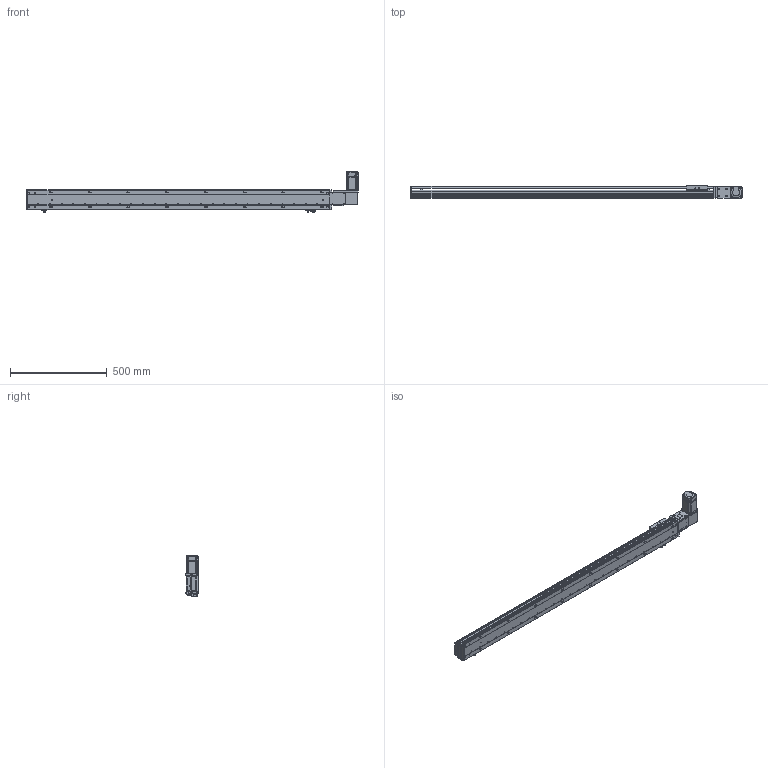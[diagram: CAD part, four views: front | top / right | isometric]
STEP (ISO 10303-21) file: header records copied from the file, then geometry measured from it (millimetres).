
FILE_DESCRIPTION (( 'STEP AP203' ), '1' );
FILE_NAME ('RY100-T-300-RK.SLDASM_1350.step', '2024-04-25T08:23:05', ( '盈信电脑' ), ( '东莞市道滘镇水果街19号' ), 'SwSTEP 2.0', 'SolidWorks 2016', '' );
FILE_SCHEMA (( 'CONFIG_CONTROL_DESIGN' ));
Length unit declared in the file: millimetre
Products named in the file (15): RY80-T肮祭謫俋欶; 1; RY100俋离覜茼え; RY100-T翋肮祭謫裔啣2; RY100-T粣創揤踡裔; RY100-T-300-RK倰第奻裔_1350; 侂狟200W萇儂; RY100-T肮祭謫臏賑輸; RY100-T-300-RK.SLDASM_1350; RY100-T左右折电机安装板; RY100-T-300-RK倰第菁釱_1350; RY100-T肮祭謫翋盓傅釱; 覜茼ん672; 滅袉蝶18-10; RY100綴裔啣
Assembly tree (18 placements, depth 3):
  RY100-T-300-RK.SLDASM_1350
    RY100-T-300-RK倰第菁釱_1350
    RY100-T-300-RK倰第奻裔_1350
    RY100-T肮祭謫臏賑輸
    RY100綴裔啣
    覜茼ん672  x3
    RY100俋离覜茼え
    RY100-T肮祭謫翋盓傅釱
    RY100-T左右折电机安装板
    侂狟200W萇儂
      1
    RY100-T粣創揤踡裔
    滅袉蝶18-10  x2
    RY100-T翋肮祭謫裔啣2  x2
    RY80-T肮祭謫俋欶
Bounding box: 1714 x 66 x 209.7 mm (x, y, z)
Volume: 3185259.2 mm3; surface area: 1326931.2 mm2
Topology: 17 solids, 17 shells, 2217 faces, 6182 edges, 4020 vertices
Faces by surface type: plane 1193, cylinder 813, cone 133, bspline 78
Entity records: 71142 total; most frequent: CARTESIAN_POINT 17223, ORIENTED_EDGE 11100, DIRECTION 10566, EDGE_CURVE 5550, VERTEX_POINT 3656, LINE 3566, VECTOR 3566, AXIS2_PLACEMENT_3D 3500
